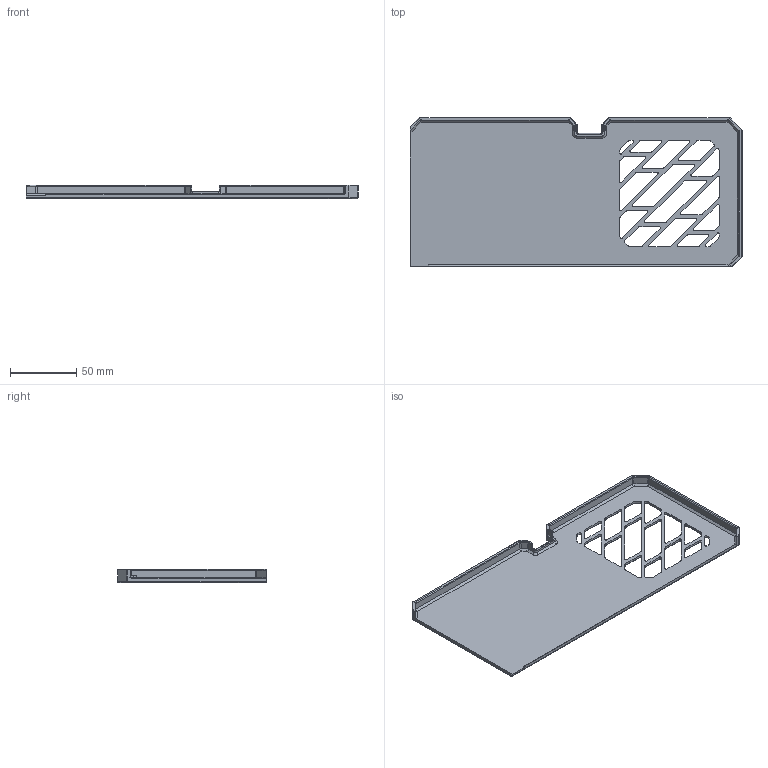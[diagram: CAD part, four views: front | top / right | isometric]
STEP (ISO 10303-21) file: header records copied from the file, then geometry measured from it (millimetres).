
FILE_DESCRIPTION((''),'2;1');
FILE_NAME('F311_MAKER_BACKPLATE','2023-06-05T11:39:04',('Kate'),(''),'CREO PARAMETRIC BY PTC INC, 2020281','CREO PARAMETRIC BY PTC INC, 2020281','');
FILE_SCHEMA(('CONFIG_CONTROL_DESIGN'));
Length unit declared in the file: millimetre
Products named in the file (1): F311_MAKER_BACKPLATE
Bounding box: 250.2 x 112.2 x 10 mm (x, y, z)
Volume: 52911.1 mm3; surface area: 56365.7 mm2
Topology: 1 solids, 1 shells, 478 faces, 1159 edges, 683 vertices
Faces by surface type: cylinder 221, plane 124, torus 83, bspline 22, sphere 16, extrusion 10, cone 2
Entity records: 15229 total; most frequent: CARTESIAN_POINT 3900, DIRECTION 2476, ORIENTED_EDGE 2318, EDGE_CURVE 1159, AXIS2_PLACEMENT_3D 952, VERTEX_POINT 683, VECTOR 572, LINE 562
